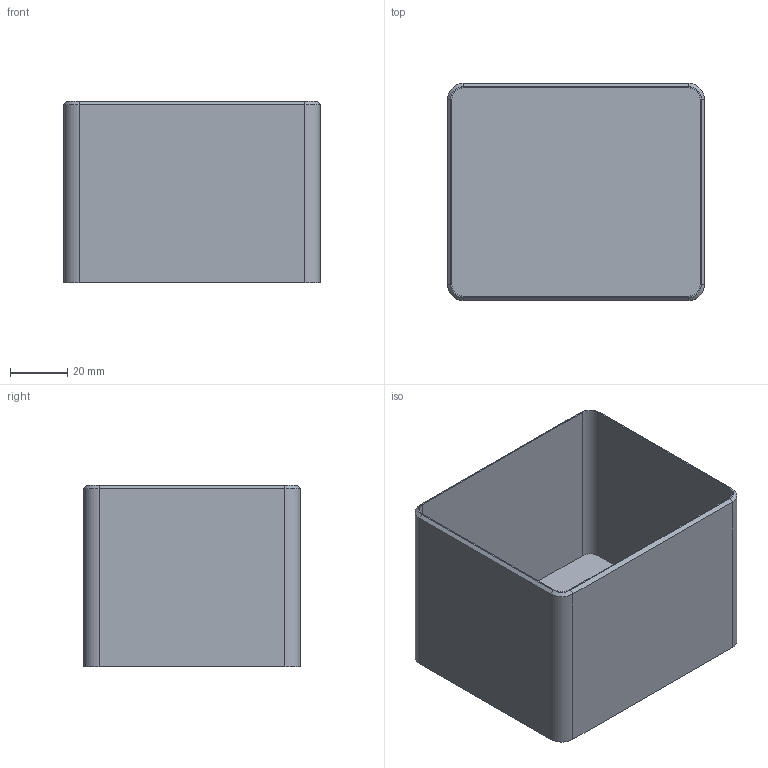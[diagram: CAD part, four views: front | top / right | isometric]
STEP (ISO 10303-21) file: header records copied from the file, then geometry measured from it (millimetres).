
FILE_DESCRIPTION(('Open CASCADE Model'),'2;1');
FILE_NAME('Open CASCADE Shape Model','2026-11-02T16:52:37',('Author'),( 'Open CASCADE'),'Open CASCADE STEP processor 7.8','Open CASCADE 7.8' ,'Unknown');
FILE_SCHEMA(('AUTOMOTIVE_DESIGN { 1 0 10303 214 1 1 1 1 }'));
Length unit declared in the file: millimetre
Products named in the file (1): Open CASCADE STEP translator 7.8 2
Bounding box: 90 x 76 x 63.5 mm (x, y, z)
Volume: 42755.5 mm3; surface area: 53158.7 mm2
Topology: 1 solids, 1 shells, 27 faces, 64 edges, 40 vertices
Faces by surface type: plane 15, cylinder 8, cone 4
Entity records: 1622 total; most frequent: CARTESIAN_POINT 344, DIRECTION 234, LINE 132, VECTOR 132, ORIENTED_EDGE 128, PCURVE 128, DEFINITIONAL_REPRESENTATION 128, EDGE_CURVE 64
